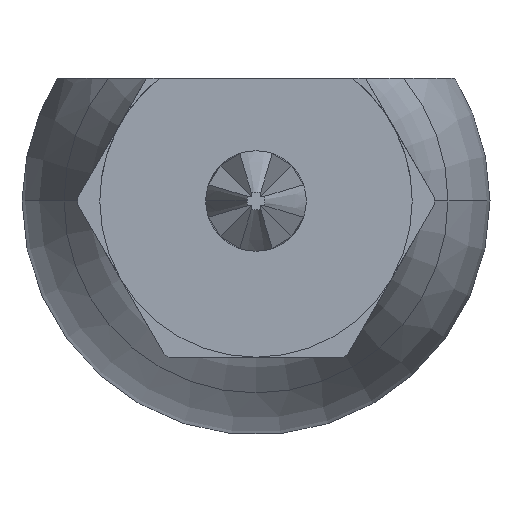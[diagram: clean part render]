
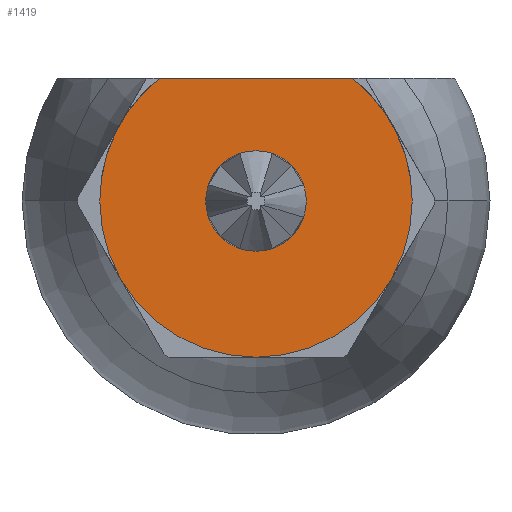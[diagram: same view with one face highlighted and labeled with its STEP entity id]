
A CAD part, left-side view. The second image highlights one B-rep face of the part: STEP entity #1419.
In plain terms, the highlighted planar face has unit normal (-1, 0, 0).
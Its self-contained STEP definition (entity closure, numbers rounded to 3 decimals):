
#10 = VECTOR ( 'NONE', #1332, 1000. ) ;
#46 = DIRECTION ( 'NONE',  ( 1., 0., 0. ) ) ;
#194 = DIRECTION ( 'NONE',  ( 0., 1., 0. ) ) ;
#203 = AXIS2_PLACEMENT_3D ( 'NONE', #320, #46, #1258 ) ;
#233 = CARTESIAN_POINT ( 'NONE',  ( -50., 4.33, 5.5 ) ) ;
#294 = DIRECTION ( 'NONE',  ( 0., -1., 0. ) ) ;
#315 = DIRECTION ( 'NONE',  ( 1., 0., 0. ) ) ;
#320 = CARTESIAN_POINT ( 'NONE',  ( -50., 0., 0. ) ) ;
#321 = VERTEX_POINT ( 'NONE', #1747 ) ;
#332 = CIRCLE ( 'NONE', #1620, 7. ) ;
#356 = LINE ( 'NONE', #1921, #10 ) ;
#407 = CARTESIAN_POINT ( 'NONE',  ( -50., 7., 0. ) ) ;
#515 = CIRCLE ( 'NONE', #1829, 7. ) ;
#529 = VERTEX_POINT ( 'NONE', #1647 ) ;
#573 = PLANE ( 'NONE',  #1029 ) ;
#623 = ORIENTED_EDGE ( 'NONE', *, *, #2004, .T. ) ;
#690 = ORIENTED_EDGE ( 'NONE', *, *, #1834, .F. ) ;
#693 = CARTESIAN_POINT ( 'NONE',  ( -50., 7., 0. ) ) ;
#757 = EDGE_LOOP ( 'NONE', ( #1053, #690, #1132, #2002 ) ) ;
#808 = VERTEX_POINT ( 'NONE', #1920 ) ;
#827 = DIRECTION ( 'NONE',  ( 1., 0., 0. ) ) ;
#840 = DIRECTION ( 'NONE',  ( 1., 0., 0. ) ) ;
#841 = DIRECTION ( 'NONE',  ( 1., 0., 0. ) ) ;
#847 = DIRECTION ( 'NONE',  ( 0., 1., 0. ) ) ;
#887 = FACE_BOUND ( 'NONE', #1537, .T. ) ;
#948 = EDGE_CURVE ( 'NONE', #808, #321, #515, .T. ) ;
#1029 = AXIS2_PLACEMENT_3D ( 'NONE', #407, #1541, #294 ) ;
#1053 = ORIENTED_EDGE ( 'NONE', *, *, #1617, .F. ) ;
#1072 = CIRCLE ( 'NONE', #1763, 2.25 ) ;
#1125 = AXIS2_PLACEMENT_3D ( 'NONE', #1154, #841, #1477 ) ;
#1132 = ORIENTED_EDGE ( 'NONE', *, *, #1574, .F. ) ;
#1154 = CARTESIAN_POINT ( 'NONE',  ( -50., 0., 0. ) ) ;
#1179 = DIRECTION ( 'NONE',  ( 0., 1., 0. ) ) ;
#1258 = DIRECTION ( 'NONE',  ( 0., 1., 0. ) ) ;
#1302 = EDGE_CURVE ( 'NONE', #1377, #529, #1072, .T. ) ;
#1332 = DIRECTION ( 'NONE',  ( 0., -1., 0. ) ) ;
#1377 = VERTEX_POINT ( 'NONE', #1780 ) ;
#1381 = ORIENTED_EDGE ( 'NONE', *, *, #1302, .T. ) ;
#1419 = ADVANCED_FACE ( 'NONE', ( #1684, #887 ), #573, .T. ) ;
#1477 = DIRECTION ( 'NONE',  ( 0., 1., 0. ) ) ;
#1537 = EDGE_LOOP ( 'NONE', ( #623, #1381 ) ) ;
#1541 = DIRECTION ( 'NONE',  ( -1., 0., 0. ) ) ;
#1554 = CIRCLE ( 'NONE', #1125, 2.25 ) ;
#1574 = EDGE_CURVE ( 'NONE', #321, #1599, #332, .T. ) ;
#1599 = VERTEX_POINT ( 'NONE', #693 ) ;
#1617 = EDGE_CURVE ( 'NONE', #1677, #808, #356, .T. ) ;
#1620 = AXIS2_PLACEMENT_3D ( 'NONE', #1731, #315, #1179 ) ;
#1647 = CARTESIAN_POINT ( 'NONE',  ( -50., 2.25, 0. ) ) ;
#1677 = VERTEX_POINT ( 'NONE', #233 ) ;
#1684 = FACE_OUTER_BOUND ( 'NONE', #757, .T. ) ;
#1685 = CIRCLE ( 'NONE', #203, 7. ) ;
#1731 = CARTESIAN_POINT ( 'NONE',  ( -50., 0., 0. ) ) ;
#1747 = CARTESIAN_POINT ( 'NONE',  ( -50., -7., 0. ) ) ;
#1753 = CARTESIAN_POINT ( 'NONE',  ( -50., 0., 0. ) ) ;
#1763 = AXIS2_PLACEMENT_3D ( 'NONE', #1812, #827, #847 ) ;
#1780 = CARTESIAN_POINT ( 'NONE',  ( -50., -2.25, 0. ) ) ;
#1812 = CARTESIAN_POINT ( 'NONE',  ( -50., 0., 0. ) ) ;
#1829 = AXIS2_PLACEMENT_3D ( 'NONE', #1753, #840, #194 ) ;
#1834 = EDGE_CURVE ( 'NONE', #1599, #1677, #1685, .T. ) ;
#1920 = CARTESIAN_POINT ( 'NONE',  ( -50., -4.33, 5.5 ) ) ;
#1921 = CARTESIAN_POINT ( 'NONE',  ( -50., 7., 5.5 ) ) ;
#2002 = ORIENTED_EDGE ( 'NONE', *, *, #948, .F. ) ;
#2004 = EDGE_CURVE ( 'NONE', #529, #1377, #1554, .T. ) ;
